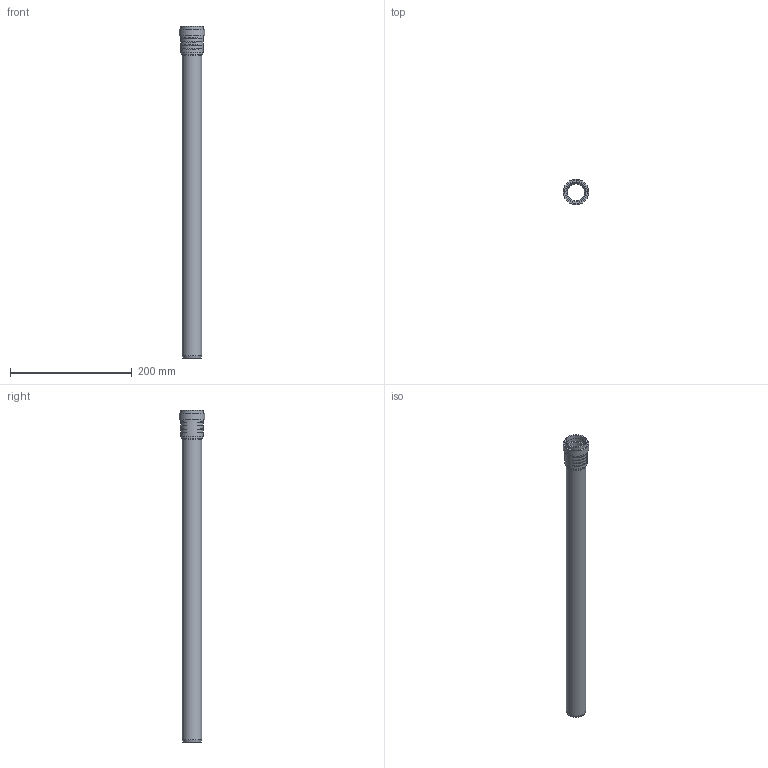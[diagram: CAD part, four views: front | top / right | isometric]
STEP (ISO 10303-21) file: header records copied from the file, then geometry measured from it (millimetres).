
FILE_DESCRIPTION(/* description */ (''),/* implementation_level */ '2;1');
FILE_NAME(/* name */ 'Z:\Geberit\Export\NewStep\390002.stp',/* time_stamp */ '2014-04-02T08:07:46+02:00',/* author */ ('ML'),/* organization */ (''),/* preprocessor_version */ 'ST-DEVELOPER v15.2',/* originating_system */ 'Autodesk Inventor 2014',/* authorisation */ '');
FILE_SCHEMA (('AUTOMOTIVE_DESIGN { 1 0 10303 214 3 1 1 }'));
Length unit declared in the file: millimetre
Products named in the file (3): 861661; 861580ohne; 390002
Bounding box: 41.8 x 41.8 x 544.3 mm (x, y, z)
Volume: 106479.8 mm3; surface area: 107489.2 mm2
Topology: 2 solids, 2 shells, 47 faces, 104 edges, 71 vertices
Faces by surface type: torus 24, cylinder 11, plane 10, cone 2
Full cylindrical faces by diameter (mm): 28.15 x2, 32.15 x2, 32.8 x2, 34.8 x1, 36.8 x2, 37.8 x1, 41.8 x1
Entity records: 1971 total; most frequent: CARTESIAN_POINT 930, DIRECTION 182, ORIENTED_EDGE 174, AXIS2_PLACEMENT_3D 91, EDGE_CURVE 87, EDGE_LOOP 78, VERTEX_POINT 71, STYLED_ITEM 49
